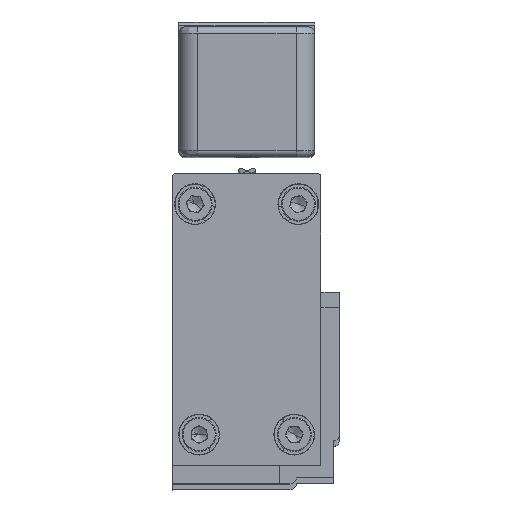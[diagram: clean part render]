
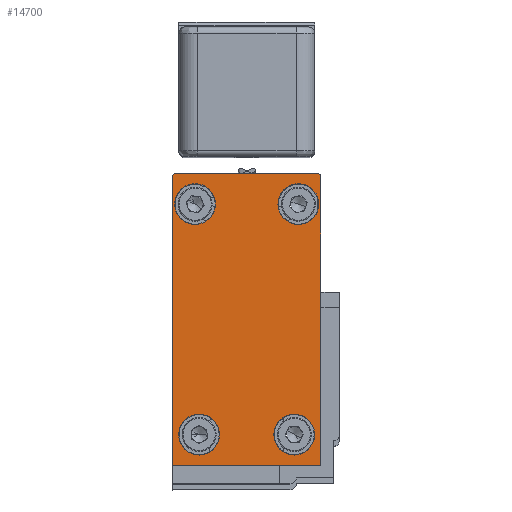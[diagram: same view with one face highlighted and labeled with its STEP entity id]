
A CAD part, top view. The second image highlights one B-rep face of the part: STEP entity #14700.
In plain terms, the highlighted planar face has unit normal (0, 0, 1).
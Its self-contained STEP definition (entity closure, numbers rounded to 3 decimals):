
#157 = DIRECTION ( 'NONE',  ( 0., 1., 0. ) ) ;
#358 = ORIENTED_EDGE ( 'NONE', *, *, #33369, .T. ) ;
#1090 = CARTESIAN_POINT ( 'NONE',  ( -17.514, 26.371, 3185. ) ) ;
#1761 = CARTESIAN_POINT ( 'NONE',  ( -18.014, -20.888, 3185. ) ) ;
#1887 = AXIS2_PLACEMENT_3D ( 'NONE', #20954, #4682, #23756 ) ;
#2588 = CIRCLE ( 'NONE', #10887, 3.302 ) ;
#2650 = CARTESIAN_POINT ( 'NONE',  ( 5.984, -20.888, 3185. ) ) ;
#2798 = ORIENTED_EDGE ( 'NONE', *, *, #33506, .T. ) ;
#2813 = VERTEX_POINT ( 'NONE', #5319 ) ;
#2880 = LINE ( 'NONE', #30092, #10127 ) ;
#3774 = CARTESIAN_POINT ( 'NONE',  ( -13.714, -15.887, 3185. ) ) ;
#4132 = EDGE_CURVE ( 'NONE', #21113, #16231, #2880, .T. ) ;
#4197 = VERTEX_POINT ( 'NONE', #16492 ) ;
#4235 = ORIENTED_EDGE ( 'NONE', *, *, #8804, .F. ) ;
#4244 = VECTOR ( 'NONE', #7233, 1000. ) ;
#4314 = DIRECTION ( 'NONE',  ( 0., 0., -1. ) ) ;
#4384 = CARTESIAN_POINT ( 'NONE',  ( -10.412, -15.887, 3185. ) ) ;
#4440 = DIRECTION ( 'NONE',  ( 0., 0., 1. ) ) ;
#4540 = AXIS2_PLACEMENT_3D ( 'NONE', #3774, #22780, #6492 ) ;
#4682 = DIRECTION ( 'NONE',  ( 0., 0., -1. ) ) ;
#5086 = LINE ( 'NONE', #1761, #4244 ) ;
#5319 = CARTESIAN_POINT ( 'NONE',  ( -11.063, 21.401, 3185. ) ) ;
#5502 = CARTESIAN_POINT ( 'NONE',  ( 5.984, 7.11, 3185. ) ) ;
#5505 = CARTESIAN_POINT ( 'NONE',  ( 5.637, 21.401, 3185. ) ) ;
#5684 = AXIS2_PLACEMENT_3D ( 'NONE', #23781, #7430, #26498 ) ;
#5959 = CARTESIAN_POINT ( 'NONE',  ( -1.626, -15.887, 3185. ) ) ;
#6490 = AXIS2_PLACEMENT_3D ( 'NONE', #20710, #4440, #23495 ) ;
#6492 = DIRECTION ( 'NONE',  ( -1., 0., 0. ) ) ;
#6619 = CARTESIAN_POINT ( 'NONE',  ( -14.365, 21.401, 3185. ) ) ;
#7036 = FACE_BOUND ( 'NONE', #25683, .T. ) ;
#7187 = DIRECTION ( 'NONE',  ( 0., 1., 0. ) ) ;
#7233 = DIRECTION ( 'NONE',  ( 1., 0., 0. ) ) ;
#7430 = DIRECTION ( 'NONE',  ( 0., 0., -1. ) ) ;
#7589 = AXIS2_PLACEMENT_3D ( 'NONE', #6619, #25662, #9378 ) ;
#7609 = CARTESIAN_POINT ( 'NONE',  ( -17.017, -15.887, 3185. ) ) ;
#8079 = EDGE_LOOP ( 'NONE', ( #2798, #14446 ) ) ;
#8548 = ORIENTED_EDGE ( 'NONE', *, *, #23967, .T. ) ;
#8804 = EDGE_CURVE ( 'NONE', #9082, #23691, #28362, .T. ) ;
#9048 = ORIENTED_EDGE ( 'NONE', *, *, #20572, .T. ) ;
#9068 = VERTEX_POINT ( 'NONE', #7609 ) ;
#9082 = VERTEX_POINT ( 'NONE', #15813 ) ;
#9161 = CIRCLE ( 'NONE', #11641, 3.302 ) ;
#9378 = DIRECTION ( 'NONE',  ( -1., 0., 0. ) ) ;
#9437 = DIRECTION ( 'NONE',  ( 0., 0., -1. ) ) ;
#9731 = CARTESIAN_POINT ( 'NONE',  ( 5.485, 26.371, 3185. ) ) ;
#10127 = VECTOR ( 'NONE', #157, 1000. ) ;
#10887 = AXIS2_PLACEMENT_3D ( 'NONE', #30113, #13760, #32856 ) ;
#10951 = EDGE_LOOP ( 'NONE', ( #16836, #358 ) ) ;
#11227 = DIRECTION ( 'NONE',  ( -1., 0., 0. ) ) ;
#11447 = DIRECTION ( 'NONE',  ( 0., 0., 1. ) ) ;
#11641 = AXIS2_PLACEMENT_3D ( 'NONE', #30834, #14441, #33573 ) ;
#11926 = EDGE_CURVE ( 'NONE', #33769, #33867, #9161, .T. ) ;
#12019 = EDGE_LOOP ( 'NONE', ( #27454, #14323, #9048, #31887, #4235, #12939, #32452 ) ) ;
#12788 = CIRCLE ( 'NONE', #13842, 0.5 ) ;
#12939 = ORIENTED_EDGE ( 'NONE', *, *, #20655, .T. ) ;
#13218 = EDGE_CURVE ( 'NONE', #34138, #2813, #19105, .T. ) ;
#13431 = FACE_BOUND ( 'NONE', #18474, .T. ) ;
#13760 = DIRECTION ( 'NONE',  ( 0., 0., -1. ) ) ;
#13842 = AXIS2_PLACEMENT_3D ( 'NONE', #27805, #11447, #30562 ) ;
#14037 = CARTESIAN_POINT ( 'NONE',  ( -0.967, 21.401, 3185. ) ) ;
#14080 = CARTESIAN_POINT ( 'NONE',  ( -13.714, -15.887, 3185. ) ) ;
#14323 = ORIENTED_EDGE ( 'NONE', *, *, #16009, .T. ) ;
#14441 = DIRECTION ( 'NONE',  ( 0., 0., -1. ) ) ;
#14446 = ORIENTED_EDGE ( 'NONE', *, *, #30354, .T. ) ;
#14700 = ADVANCED_FACE ( 'NONE', ( #13431, #7036, #21496, #27088, #19778 ), #23374, .T. ) ;
#15262 = CARTESIAN_POINT ( 'NONE',  ( 5.984, 25.871, 3185. ) ) ;
#15741 = LINE ( 'NONE', #33416, #22975 ) ;
#15757 = VERTEX_POINT ( 'NONE', #9731 ) ;
#15813 = CARTESIAN_POINT ( 'NONE',  ( -18.014, 25.871, 3185. ) ) ;
#16009 = EDGE_CURVE ( 'NONE', #16231, #19868, #26616, .T. ) ;
#16231 = VERTEX_POINT ( 'NONE', #5502 ) ;
#16492 = CARTESIAN_POINT ( 'NONE',  ( -18.014, -20.888, 3185. ) ) ;
#16760 = LINE ( 'NONE', #30337, #24045 ) ;
#16836 = ORIENTED_EDGE ( 'NONE', *, *, #30664, .T. ) ;
#16837 = DIRECTION ( 'NONE',  ( -1., 0., 0. ) ) ;
#17833 = VERTEX_POINT ( 'NONE', #4384 ) ;
#17973 = CIRCLE ( 'NONE', #1887, 3.302 ) ;
#18461 = VECTOR ( 'NONE', #7187, 1000. ) ;
#18474 = EDGE_LOOP ( 'NONE', ( #30889, #8548 ) ) ;
#19105 = CIRCLE ( 'NONE', #7589, 3.302 ) ;
#19139 = CIRCLE ( 'NONE', #25489, 3.302 ) ;
#19228 = CARTESIAN_POINT ( 'NONE',  ( 4.978, -15.887, 3185. ) ) ;
#19722 = AXIS2_PLACEMENT_3D ( 'NONE', #20586, #4314, #23369 ) ;
#19778 = FACE_OUTER_BOUND ( 'NONE', #12019, .T. ) ;
#19868 = VERTEX_POINT ( 'NONE', #15262 ) ;
#20572 = EDGE_CURVE ( 'NONE', #19868, #15757, #12788, .T. ) ;
#20586 = CARTESIAN_POINT ( 'NONE',  ( 2.335, 21.401, 3185. ) ) ;
#20655 = EDGE_CURVE ( 'NONE', #9082, #4197, #15741, .T. ) ;
#20710 = CARTESIAN_POINT ( 'NONE',  ( -18.014, -20.888, 3185. ) ) ;
#20954 = CARTESIAN_POINT ( 'NONE',  ( -14.365, 21.401, 3185. ) ) ;
#21113 = VERTEX_POINT ( 'NONE', #2650 ) ;
#21496 = FACE_BOUND ( 'NONE', #10951, .T. ) ;
#22436 = ORIENTED_EDGE ( 'NONE', *, *, #28383, .T. ) ;
#22627 = DIRECTION ( 'NONE',  ( 0., -1., 0. ) ) ;
#22780 = DIRECTION ( 'NONE',  ( 0., 0., -1. ) ) ;
#22975 = VECTOR ( 'NONE', #22627, 1000. ) ;
#23369 = DIRECTION ( 'NONE',  ( -1., 0., 0. ) ) ;
#23374 = PLANE ( 'NONE',  #6490 ) ;
#23377 = EDGE_CURVE ( 'NONE', #15757, #23691, #16760, .T. ) ;
#23495 = DIRECTION ( 'NONE',  ( -1., 0., 0. ) ) ;
#23506 = CARTESIAN_POINT ( 'NONE',  ( 5.984, 7.11, 3185. ) ) ;
#23691 = VERTEX_POINT ( 'NONE', #1090 ) ;
#23756 = DIRECTION ( 'NONE',  ( -1., 0., 0. ) ) ;
#23781 = CARTESIAN_POINT ( 'NONE',  ( 1.676, -15.887, 3185. ) ) ;
#23967 = EDGE_CURVE ( 'NONE', #2813, #34138, #17973, .T. ) ;
#24045 = VECTOR ( 'NONE', #11227, 1000. ) ;
#24962 = VERTEX_POINT ( 'NONE', #19228 ) ;
#25271 = EDGE_CURVE ( 'NONE', #4197, #21113, #5086, .T. ) ;
#25489 = AXIS2_PLACEMENT_3D ( 'NONE', #14080, #33207, #16837 ) ;
#25662 = DIRECTION ( 'NONE',  ( 0., 0., -1. ) ) ;
#25683 = EDGE_LOOP ( 'NONE', ( #22436, #31013 ) ) ;
#25722 = CARTESIAN_POINT ( 'NONE',  ( -17.514, 25.871, 3185. ) ) ;
#26498 = DIRECTION ( 'NONE',  ( -1., 0., 0. ) ) ;
#26616 = LINE ( 'NONE', #23506, #18461 ) ;
#27088 = FACE_BOUND ( 'NONE', #8079, .T. ) ;
#27156 = CIRCLE ( 'NONE', #19722, 3.302 ) ;
#27454 = ORIENTED_EDGE ( 'NONE', *, *, #4132, .T. ) ;
#27805 = CARTESIAN_POINT ( 'NONE',  ( 5.485, 25.871, 3185. ) ) ;
#28362 = CIRCLE ( 'NONE', #34180, 0.5 ) ;
#28383 = EDGE_CURVE ( 'NONE', #33867, #33769, #27156, .T. ) ;
#28469 = DIRECTION ( 'NONE',  ( 0., 1., 0. ) ) ;
#28589 = CARTESIAN_POINT ( 'NONE',  ( -17.667, 21.401, 3185. ) ) ;
#30092 = CARTESIAN_POINT ( 'NONE',  ( 5.984, -20.888, 3185. ) ) ;
#30113 = CARTESIAN_POINT ( 'NONE',  ( 1.676, -15.887, 3185. ) ) ;
#30337 = CARTESIAN_POINT ( 'NONE',  ( 5.485, 26.371, 3185. ) ) ;
#30354 = EDGE_CURVE ( 'NONE', #17833, #9068, #31741, .T. ) ;
#30562 = DIRECTION ( 'NONE',  ( 0., 1., 0. ) ) ;
#30664 = EDGE_CURVE ( 'NONE', #34198, #24962, #32311, .T. ) ;
#30834 = CARTESIAN_POINT ( 'NONE',  ( 2.335, 21.401, 3185. ) ) ;
#30889 = ORIENTED_EDGE ( 'NONE', *, *, #13218, .T. ) ;
#31013 = ORIENTED_EDGE ( 'NONE', *, *, #11926, .T. ) ;
#31741 = CIRCLE ( 'NONE', #4540, 3.302 ) ;
#31887 = ORIENTED_EDGE ( 'NONE', *, *, #23377, .T. ) ;
#32311 = CIRCLE ( 'NONE', #5684, 3.302 ) ;
#32452 = ORIENTED_EDGE ( 'NONE', *, *, #25271, .T. ) ;
#32856 = DIRECTION ( 'NONE',  ( -1., 0., 0. ) ) ;
#33207 = DIRECTION ( 'NONE',  ( 0., 0., -1. ) ) ;
#33369 = EDGE_CURVE ( 'NONE', #24962, #34198, #2588, .T. ) ;
#33416 = CARTESIAN_POINT ( 'NONE',  ( -18.014, 25.871, 3185. ) ) ;
#33506 = EDGE_CURVE ( 'NONE', #9068, #17833, #19139, .T. ) ;
#33573 = DIRECTION ( 'NONE',  ( -1., 0., 0. ) ) ;
#33769 = VERTEX_POINT ( 'NONE', #5505 ) ;
#33867 = VERTEX_POINT ( 'NONE', #14037 ) ;
#34138 = VERTEX_POINT ( 'NONE', #28589 ) ;
#34180 = AXIS2_PLACEMENT_3D ( 'NONE', #25722, #9437, #28469 ) ;
#34198 = VERTEX_POINT ( 'NONE', #5959 ) ;
